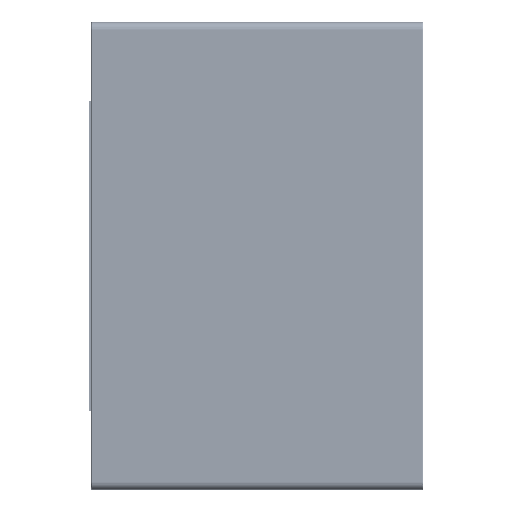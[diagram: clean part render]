
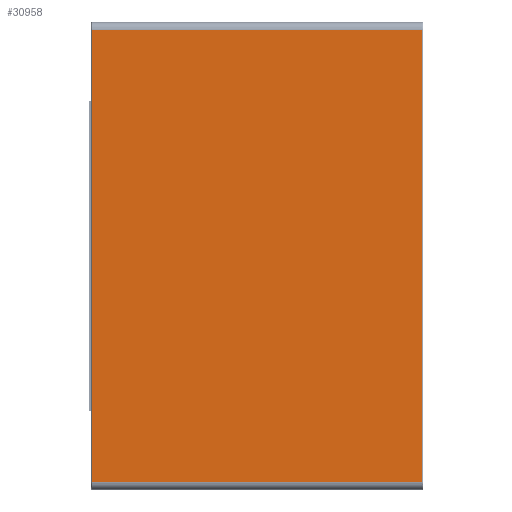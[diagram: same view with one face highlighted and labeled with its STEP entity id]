
A CAD part, front view. The second image highlights one B-rep face of the part: STEP entity #30958.
In plain terms, the highlighted planar face has unit normal (0, -1, 0) as drawn and (0, 1, 0) by its records, which use the part's own axes.
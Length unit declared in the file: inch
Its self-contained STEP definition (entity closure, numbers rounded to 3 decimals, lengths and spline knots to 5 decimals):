
#4908 = EDGE_CURVE ( 'NONE', #47403, #132187, #151770, .T. ) ;
#14037 = CARTESIAN_POINT ( 'NONE',  ( -1.8625, 0.1, -2.53125 ) ) ;
#30958 = ADVANCED_FACE ( 'NONE', ( #113276 ), #103964, .T. ) ;
#30987 = ORIENTED_EDGE ( 'NONE', *, *, #54735, .T. ) ;
#32829 = EDGE_CURVE ( 'NONE', #116059, #52001, #122253, .T. ) ;
#43642 = CARTESIAN_POINT ( 'NONE',  ( 0., 0.1, 0. ) ) ;
#44922 = CARTESIAN_POINT ( 'NONE',  ( 1.8525, 0.1, -2.53125 ) ) ;
#47244 = CARTESIAN_POINT ( 'NONE',  ( 1.8625, 0.1, 2.53125 ) ) ;
#47403 = VERTEX_POINT ( 'NONE', #130740 ) ;
#50006 = ORIENTED_EDGE ( 'NONE', *, *, #4908, .T. ) ;
#52001 = VERTEX_POINT ( 'NONE', #90066 ) ;
#54735 = EDGE_CURVE ( 'NONE', #132187, #116059, #125394, .T. ) ;
#55365 = ORIENTED_EDGE ( 'NONE', *, *, #117499, .T. ) ;
#64251 = DIRECTION ( 'NONE',  ( -1., 0., 0. ) ) ;
#83359 = LINE ( 'NONE', #85638, #148662 ) ;
#85638 = CARTESIAN_POINT ( 'NONE',  ( -1.8525, 0.1, 2.53125 ) ) ;
#89349 = DIRECTION ( 'NONE',  ( 0., 1., 0. ) ) ;
#90066 = CARTESIAN_POINT ( 'NONE',  ( -1.8525, 0.1, -2.53125 ) ) ;
#103964 = PLANE ( 'NONE',  #112459 ) ;
#105744 = EDGE_LOOP ( 'NONE', ( #122451, #55365, #50006, #30987 ) ) ;
#109095 = CARTESIAN_POINT ( 'NONE',  ( 1.8525, 0.1, 2.53125 ) ) ;
#112459 = AXIS2_PLACEMENT_3D ( 'NONE', #43642, #89349, #138793 ) ;
#113276 = FACE_OUTER_BOUND ( 'NONE', #105744, .T. ) ;
#116059 = VERTEX_POINT ( 'NONE', #125377 ) ;
#117499 = EDGE_CURVE ( 'NONE', #52001, #47403, #83359, .T. ) ;
#122253 = LINE ( 'NONE', #14037, #137963 ) ;
#122451 = ORIENTED_EDGE ( 'NONE', *, *, #32829, .T. ) ;
#124628 = DIRECTION ( 'NONE',  ( 0., 0., -1. ) ) ;
#125377 = CARTESIAN_POINT ( 'NONE',  ( 1.8525, 0.1, -2.53125 ) ) ;
#125394 = LINE ( 'NONE', #44922, #152730 ) ;
#129250 = DIRECTION ( 'NONE',  ( 1., 0., 0. ) ) ;
#130740 = CARTESIAN_POINT ( 'NONE',  ( -1.8525, 0.1, 2.53125 ) ) ;
#132187 = VERTEX_POINT ( 'NONE', #109095 ) ;
#132772 = DIRECTION ( 'NONE',  ( 0., 0., 1. ) ) ;
#137963 = VECTOR ( 'NONE', #64251, 39.37008 ) ;
#138268 = VECTOR ( 'NONE', #129250, 39.37008 ) ;
#138793 = DIRECTION ( 'NONE',  ( 0., 0., 1. ) ) ;
#148662 = VECTOR ( 'NONE', #132772, 39.37008 ) ;
#151770 = LINE ( 'NONE', #47244, #138268 ) ;
#152730 = VECTOR ( 'NONE', #124628, 39.37008 ) ;
